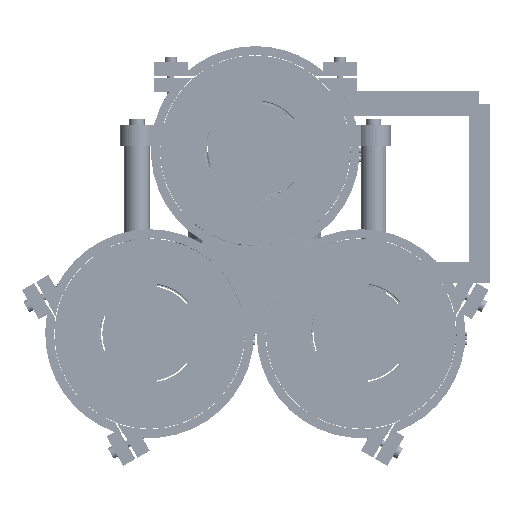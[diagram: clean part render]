
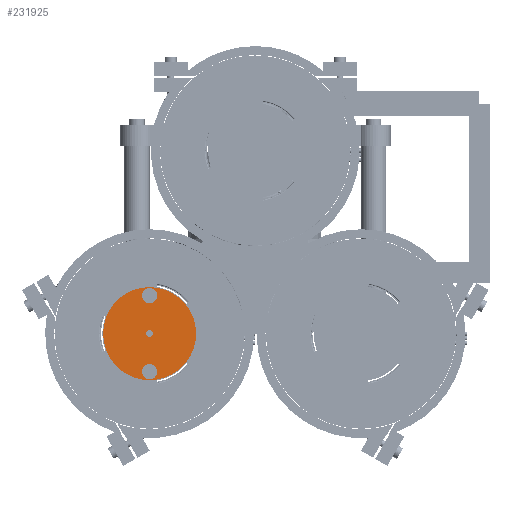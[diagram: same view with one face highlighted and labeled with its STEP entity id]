
A CAD part, left-side view. The second image highlights one B-rep face of the part: STEP entity #231925.
In plain terms, the highlighted planar face has unit normal (-1, 0, 0).
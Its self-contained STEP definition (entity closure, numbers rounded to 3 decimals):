
#231754 = CYLINDRICAL_SURFACE('',#231755,11.);
#231755 = AXIS2_PLACEMENT_3D('',#231756,#231757,#231758);
#231756 = CARTESIAN_POINT('',(-73.,25.,-14.4));
#231757 = DIRECTION('',(1.,0.,0.));
#231758 = DIRECTION('',(0.,0.,-1.));
#231779 = VERTEX_POINT('',#231780);
#231780 = CARTESIAN_POINT('',(-73.,25.,-25.4));
#231801 = EDGE_CURVE('',#231779,#231779,#231802,.T.);
#231802 = SURFACE_CURVE('',#231803,(#231808,#231815),.PCURVE_S1.);
#231803 = CIRCLE('',#231804,11.);
#231804 = AXIS2_PLACEMENT_3D('',#231805,#231806,#231807);
#231805 = CARTESIAN_POINT('',(-73.,25.,-14.4));
#231806 = DIRECTION('',(1.,-0.,0.));
#231807 = DIRECTION('',(0.,0.,-1.));
#231808 = PCURVE('',#231754,#231809);
#231809 = DEFINITIONAL_REPRESENTATION('',(#231810),#231814);
#231810 = LINE('',#231811,#231812);
#231811 = CARTESIAN_POINT('',(0.,0.));
#231812 = VECTOR('',#231813,1.);
#231813 = DIRECTION('',(1.,0.));
#231814 = ( GEOMETRIC_REPRESENTATION_CONTEXT(2) 
PARAMETRIC_REPRESENTATION_CONTEXT() REPRESENTATION_CONTEXT('2D SPACE',''
  ) );
#231815 = PCURVE('',#231816,#231821);
#231816 = PLANE('',#231817);
#231817 = AXIS2_PLACEMENT_3D('',#231818,#231819,#231820);
#231818 = CARTESIAN_POINT('',(-73.,25.,-14.4));
#231819 = DIRECTION('',(1.,0.,0.));
#231820 = DIRECTION('',(0.,0.,-1.));
#231821 = DEFINITIONAL_REPRESENTATION('',(#231822),#231826);
#231822 = CIRCLE('',#231823,11.);
#231823 = AXIS2_PLACEMENT_2D('',#231824,#231825);
#231824 = CARTESIAN_POINT('',(0.,0.));
#231825 = DIRECTION('',(1.,0.));
#231826 = ( GEOMETRIC_REPRESENTATION_CONTEXT(2) 
PARAMETRIC_REPRESENTATION_CONTEXT() REPRESENTATION_CONTEXT('2D SPACE',''
  ) );
#231852 = CYLINDRICAL_SURFACE('',#231853,1.1);
#231853 = AXIS2_PLACEMENT_3D('',#231854,#231855,#231856);
#231854 = CARTESIAN_POINT('',(-74.,25.,-5.4));
#231855 = DIRECTION('',(1.,0.,0.));
#231856 = DIRECTION('',(0.,0.,-1.));
#231883 = CYLINDRICAL_SURFACE('',#231884,0.8);
#231884 = AXIS2_PLACEMENT_3D('',#231885,#231886,#231887);
#231885 = CARTESIAN_POINT('',(-74.,25.,-14.4));
#231886 = DIRECTION('',(1.,0.,0.));
#231887 = DIRECTION('',(0.,0.,-1.));
#231914 = CYLINDRICAL_SURFACE('',#231915,1.1);
#231915 = AXIS2_PLACEMENT_3D('',#231916,#231917,#231918);
#231916 = CARTESIAN_POINT('',(-74.,25.,-23.4));
#231917 = DIRECTION('',(1.,0.,0.));
#231918 = DIRECTION('',(0.,0.,-1.));
#231925 = ADVANCED_FACE('',(#231926,#231929,#231955,#231981),#231816,.F.
  );
#231926 = FACE_BOUND('',#231927,.F.);
#231927 = EDGE_LOOP('',(#231928));
#231928 = ORIENTED_EDGE('',*,*,#231801,.T.);
#231929 = FACE_BOUND('',#231930,.F.);
#231930 = EDGE_LOOP('',(#231931));
#231931 = ORIENTED_EDGE('',*,*,#231932,.F.);
#231932 = EDGE_CURVE('',#231933,#231933,#231935,.T.);
#231933 = VERTEX_POINT('',#231934);
#231934 = CARTESIAN_POINT('',(-73.,25.,-6.5));
#231935 = SURFACE_CURVE('',#231936,(#231941,#231948),.PCURVE_S1.);
#231936 = CIRCLE('',#231937,1.1);
#231937 = AXIS2_PLACEMENT_3D('',#231938,#231939,#231940);
#231938 = CARTESIAN_POINT('',(-73.,25.,-5.4));
#231939 = DIRECTION('',(1.,-0.,0.));
#231940 = DIRECTION('',(0.,0.,-1.));
#231941 = PCURVE('',#231816,#231942);
#231942 = DEFINITIONAL_REPRESENTATION('',(#231943),#231947);
#231943 = CIRCLE('',#231944,1.1);
#231944 = AXIS2_PLACEMENT_2D('',#231945,#231946);
#231945 = CARTESIAN_POINT('',(-9.,0.));
#231946 = DIRECTION('',(1.,0.));
#231947 = ( GEOMETRIC_REPRESENTATION_CONTEXT(2) 
PARAMETRIC_REPRESENTATION_CONTEXT() REPRESENTATION_CONTEXT('2D SPACE',''
  ) );
#231948 = PCURVE('',#231852,#231949);
#231949 = DEFINITIONAL_REPRESENTATION('',(#231950),#231954);
#231950 = LINE('',#231951,#231952);
#231951 = CARTESIAN_POINT('',(0.,1.));
#231952 = VECTOR('',#231953,1.);
#231953 = DIRECTION('',(1.,0.));
#231954 = ( GEOMETRIC_REPRESENTATION_CONTEXT(2) 
PARAMETRIC_REPRESENTATION_CONTEXT() REPRESENTATION_CONTEXT('2D SPACE',''
  ) );
#231955 = FACE_BOUND('',#231956,.F.);
#231956 = EDGE_LOOP('',(#231957));
#231957 = ORIENTED_EDGE('',*,*,#231958,.F.);
#231958 = EDGE_CURVE('',#231959,#231959,#231961,.T.);
#231959 = VERTEX_POINT('',#231960);
#231960 = CARTESIAN_POINT('',(-73.,25.,-15.2));
#231961 = SURFACE_CURVE('',#231962,(#231967,#231974),.PCURVE_S1.);
#231962 = CIRCLE('',#231963,0.8);
#231963 = AXIS2_PLACEMENT_3D('',#231964,#231965,#231966);
#231964 = CARTESIAN_POINT('',(-73.,25.,-14.4));
#231965 = DIRECTION('',(1.,-0.,0.));
#231966 = DIRECTION('',(0.,0.,-1.));
#231967 = PCURVE('',#231816,#231968);
#231968 = DEFINITIONAL_REPRESENTATION('',(#231969),#231973);
#231969 = CIRCLE('',#231970,0.8);
#231970 = AXIS2_PLACEMENT_2D('',#231971,#231972);
#231971 = CARTESIAN_POINT('',(0.,0.));
#231972 = DIRECTION('',(1.,0.));
#231973 = ( GEOMETRIC_REPRESENTATION_CONTEXT(2) 
PARAMETRIC_REPRESENTATION_CONTEXT() REPRESENTATION_CONTEXT('2D SPACE',''
  ) );
#231974 = PCURVE('',#231883,#231975);
#231975 = DEFINITIONAL_REPRESENTATION('',(#231976),#231980);
#231976 = LINE('',#231977,#231978);
#231977 = CARTESIAN_POINT('',(0.,1.));
#231978 = VECTOR('',#231979,1.);
#231979 = DIRECTION('',(1.,0.));
#231980 = ( GEOMETRIC_REPRESENTATION_CONTEXT(2) 
PARAMETRIC_REPRESENTATION_CONTEXT() REPRESENTATION_CONTEXT('2D SPACE',''
  ) );
#231981 = FACE_BOUND('',#231982,.F.);
#231982 = EDGE_LOOP('',(#231983));
#231983 = ORIENTED_EDGE('',*,*,#231984,.F.);
#231984 = EDGE_CURVE('',#231985,#231985,#231987,.T.);
#231985 = VERTEX_POINT('',#231986);
#231986 = CARTESIAN_POINT('',(-73.,25.,-24.5));
#231987 = SURFACE_CURVE('',#231988,(#231993,#232000),.PCURVE_S1.);
#231988 = CIRCLE('',#231989,1.1);
#231989 = AXIS2_PLACEMENT_3D('',#231990,#231991,#231992);
#231990 = CARTESIAN_POINT('',(-73.,25.,-23.4));
#231991 = DIRECTION('',(1.,-0.,0.));
#231992 = DIRECTION('',(0.,0.,-1.));
#231993 = PCURVE('',#231816,#231994);
#231994 = DEFINITIONAL_REPRESENTATION('',(#231995),#231999);
#231995 = CIRCLE('',#231996,1.1);
#231996 = AXIS2_PLACEMENT_2D('',#231997,#231998);
#231997 = CARTESIAN_POINT('',(9.,0.));
#231998 = DIRECTION('',(1.,0.));
#231999 = ( GEOMETRIC_REPRESENTATION_CONTEXT(2) 
PARAMETRIC_REPRESENTATION_CONTEXT() REPRESENTATION_CONTEXT('2D SPACE',''
  ) );
#232000 = PCURVE('',#231914,#232001);
#232001 = DEFINITIONAL_REPRESENTATION('',(#232002),#232006);
#232002 = LINE('',#232003,#232004);
#232003 = CARTESIAN_POINT('',(0.,1.));
#232004 = VECTOR('',#232005,1.);
#232005 = DIRECTION('',(1.,0.));
#232006 = ( GEOMETRIC_REPRESENTATION_CONTEXT(2) 
PARAMETRIC_REPRESENTATION_CONTEXT() REPRESENTATION_CONTEXT('2D SPACE',''
  ) );
